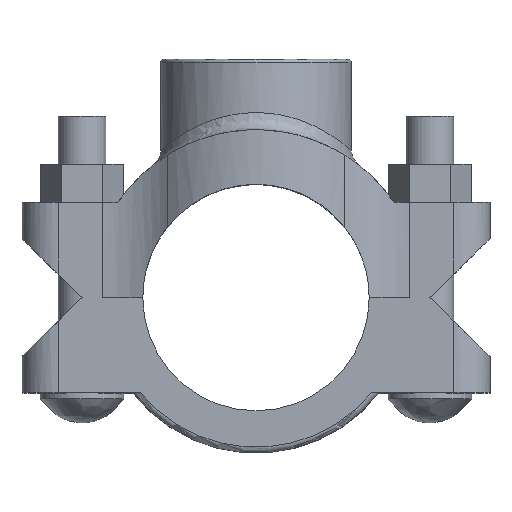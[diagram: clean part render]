
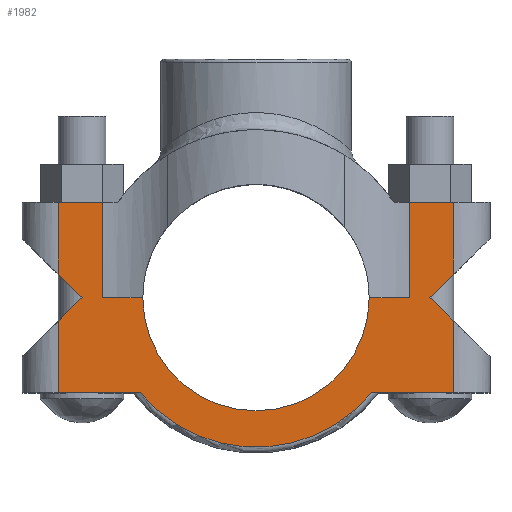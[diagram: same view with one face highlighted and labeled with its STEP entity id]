
A CAD part, top view. The second image highlights one B-rep face of the part: STEP entity #1982.
In plain terms, the highlighted planar face has unit normal (0, 0, 1).
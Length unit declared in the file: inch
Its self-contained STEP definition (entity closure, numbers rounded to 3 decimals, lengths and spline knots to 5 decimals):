
#118=LINE('',#3048,#270);
#164=LINE('',#3443,#316);
#177=LINE('',#3480,#329);
#184=LINE('',#3596,#336);
#196=LINE('',#3630,#348);
#198=LINE('',#3637,#350);
#199=LINE('',#3639,#351);
#200=LINE('',#3642,#352);
#221=LINE('',#3839,#373);
#223=LINE('',#3845,#375);
#225=LINE('',#3849,#377);
#226=LINE('',#3852,#378);
#227=LINE('',#3857,#379);
#230=LINE('',#3870,#382);
#234=LINE('',#3879,#386);
#235=LINE('',#3881,#387);
#270=VECTOR('',#2311,0.3937);
#316=VECTOR('',#2491,0.3937);
#329=VECTOR('',#2528,0.3937);
#336=VECTOR('',#2543,0.3937);
#348=VECTOR('',#2579,0.3937);
#350=VECTOR('',#2589,0.3937);
#351=VECTOR('',#2592,0.3937);
#352=VECTOR('',#2595,0.3937);
#373=VECTOR('',#2668,0.3937);
#375=VECTOR('',#2676,0.3937);
#377=VECTOR('',#2682,0.3937);
#378=VECTOR('',#2687,0.3937);
#379=VECTOR('',#2694,0.3937);
#382=VECTOR('',#2707,0.3937);
#386=VECTOR('',#2721,0.3937);
#387=VECTOR('',#2724,0.3937);
#435=PLANE('',#2188);
#526=FACE_OUTER_BOUND('',#632,.T.);
#632=EDGE_LOOP('',(#1739,#1740,#1741,#1742,#1743,#1744,#1745,#1746,#1747,
#1748,#1749,#1750,#1751,#1752,#1753,#1754,#1755,#1756));
#691=CIRCLE('',#2122,1.1875);
#700=CIRCLE('',#2146,1.57);
#794=VERTEX_POINT('',#3045);
#795=VERTEX_POINT('',#3047);
#855=VERTEX_POINT('',#3440);
#856=VERTEX_POINT('',#3442);
#867=VERTEX_POINT('',#3477);
#868=VERTEX_POINT('',#3479);
#875=VERTEX_POINT('',#3538);
#880=VERTEX_POINT('',#3591);
#881=VERTEX_POINT('',#3595);
#890=VERTEX_POINT('',#3627);
#891=VERTEX_POINT('',#3629);
#892=VERTEX_POINT('',#3635);
#893=VERTEX_POINT('',#3641);
#901=VERTEX_POINT('',#3664);
#903=VERTEX_POINT('',#3676);
#923=VERTEX_POINT('',#3838);
#925=VERTEX_POINT('',#3856);
#930=VERTEX_POINT('',#3868);
#993=EDGE_CURVE('',#795,#794,#118,.T.);
#1082=EDGE_CURVE('',#856,#855,#164,.T.);
#1101=EDGE_CURVE('',#868,#867,#177,.T.);
#1115=EDGE_CURVE('',#875,#880,#691,.T.);
#1116=EDGE_CURVE('',#881,#868,#184,.T.);
#1134=EDGE_CURVE('',#891,#890,#196,.T.);
#1138=EDGE_CURVE('',#892,#794,#198,.T.);
#1139=EDGE_CURVE('',#875,#892,#199,.T.);
#1140=EDGE_CURVE('',#881,#893,#200,.T.);
#1154=EDGE_CURVE('',#903,#901,#700,.T.);
#1186=EDGE_CURVE('',#903,#923,#221,.T.);
#1190=EDGE_CURVE('',#893,#901,#223,.T.);
#1192=EDGE_CURVE('',#855,#923,#225,.T.);
#1193=EDGE_CURVE('',#891,#880,#226,.T.);
#1195=EDGE_CURVE('',#925,#856,#227,.T.);
#1202=EDGE_CURVE('',#890,#930,#230,.T.);
#1206=EDGE_CURVE('',#867,#795,#234,.T.);
#1207=EDGE_CURVE('',#925,#930,#235,.T.);
#1739=ORIENTED_EDGE('',*,*,#1082,.T.);
#1740=ORIENTED_EDGE('',*,*,#1192,.T.);
#1741=ORIENTED_EDGE('',*,*,#1186,.F.);
#1742=ORIENTED_EDGE('',*,*,#1154,.T.);
#1743=ORIENTED_EDGE('',*,*,#1190,.F.);
#1744=ORIENTED_EDGE('',*,*,#1140,.F.);
#1745=ORIENTED_EDGE('',*,*,#1116,.T.);
#1746=ORIENTED_EDGE('',*,*,#1101,.T.);
#1747=ORIENTED_EDGE('',*,*,#1206,.T.);
#1748=ORIENTED_EDGE('',*,*,#993,.T.);
#1749=ORIENTED_EDGE('',*,*,#1138,.F.);
#1750=ORIENTED_EDGE('',*,*,#1139,.F.);
#1751=ORIENTED_EDGE('',*,*,#1115,.T.);
#1752=ORIENTED_EDGE('',*,*,#1193,.F.);
#1753=ORIENTED_EDGE('',*,*,#1134,.T.);
#1754=ORIENTED_EDGE('',*,*,#1202,.T.);
#1755=ORIENTED_EDGE('',*,*,#1207,.F.);
#1756=ORIENTED_EDGE('',*,*,#1195,.T.);
#1982=ADVANCED_FACE('',(#526),#435,.T.);
#2122=AXIS2_PLACEMENT_3D('',#3593,#2539,#2540);
#2146=AXIS2_PLACEMENT_3D('',#3677,#2614,#2615);
#2188=AXIS2_PLACEMENT_3D('',#3880,#2722,#2723);
#2311=DIRECTION('',(-1.,0.,0.));
#2491=DIRECTION('',(-0.713,-0.701,0.));
#2528=DIRECTION('',(0.713,0.701,0.));
#2539=DIRECTION('center_axis',(0.,0.,-1.));
#2540=DIRECTION('ref_axis',(-1.,0.,0.));
#2543=DIRECTION('',(-0.713,0.701,0.));
#2579=DIRECTION('',(0.,1.,0.));
#2589=DIRECTION('',(0.,1.,0.));
#2592=DIRECTION('',(1.,0.,0.));
#2595=DIRECTION('',(0.,-1.,0.));
#2614=DIRECTION('center_axis',(0.,0.,1.));
#2615=DIRECTION('ref_axis',(-1.,0.,0.));
#2668=DIRECTION('',(-1.,0.,0.));
#2676=DIRECTION('',(-1.,0.,0.));
#2682=DIRECTION('',(0.,-1.,0.));
#2687=DIRECTION('',(1.,0.,0.));
#2694=DIRECTION('',(0.713,-0.701,0.));
#2707=DIRECTION('',(-1.,0.,0.));
#2721=DIRECTION('',(0.,1.,0.));
#2722=DIRECTION('center_axis',(0.,0.,1.));
#2723=DIRECTION('ref_axis',(1.,0.,0.));
#2724=DIRECTION('',(0.,1.,0.));
#3045=CARTESIAN_POINT('',(1.60565,1.,0.75));
#3047=CARTESIAN_POINT('',(2.075,1.,0.75));
#3048=CARTESIAN_POINT('',(1.52698,1.,0.75));
#3440=CARTESIAN_POINT('',(-2.075,-0.24603,0.75));
#3442=CARTESIAN_POINT('',(-1.825,0.,0.75));
#3443=CARTESIAN_POINT('',(-1.26861,0.54755,0.75));
#3477=CARTESIAN_POINT('',(2.075,0.24603,0.75));
#3479=CARTESIAN_POINT('',(1.825,0.,0.75));
#3480=CARTESIAN_POINT('',(2.08429,0.25517,0.75));
#3538=CARTESIAN_POINT('',(1.1875,0.,0.75));
#3591=CARTESIAN_POINT('',(-1.1875,0.,0.75));
#3593=CARTESIAN_POINT('Origin',(0.,0.,0.75));
#3595=CARTESIAN_POINT('',(2.075,-0.24603,0.75));
#3596=CARTESIAN_POINT('',(1.76929,0.05483,0.75));
#3627=CARTESIAN_POINT('',(-1.60565,1.,0.75));
#3629=CARTESIAN_POINT('',(-1.60565,0.,0.75));
#3630=CARTESIAN_POINT('',(-1.60565,0.,0.75));
#3635=CARTESIAN_POINT('',(1.60565,0.,0.75));
#3637=CARTESIAN_POINT('',(1.60565,0.,0.75));
#3639=CARTESIAN_POINT('',(1.0375,0.,0.75));
#3641=CARTESIAN_POINT('',(2.075,-1.,0.75));
#3642=CARTESIAN_POINT('',(2.075,0.,0.75));
#3664=CARTESIAN_POINT('',(1.21033,-1.,0.75));
#3676=CARTESIAN_POINT('',(-1.21033,-1.,0.75));
#3677=CARTESIAN_POINT('Origin',(0.,0.,
0.75));
#3838=CARTESIAN_POINT('',(-2.075,-1.,0.75));
#3839=CARTESIAN_POINT('',(-2.075,-1.,0.75));
#3845=CARTESIAN_POINT('',(-2.075,-1.,0.75));
#3849=CARTESIAN_POINT('',(-2.075,0.,0.75));
#3852=CARTESIAN_POINT('',(1.0375,0.,0.75));
#3856=CARTESIAN_POINT('',(-2.075,0.24603,0.75));
#3857=CARTESIAN_POINT('',(-1.8885,0.06249,0.75));
#3868=CARTESIAN_POINT('',(-2.075,1.,0.75));
#3870=CARTESIAN_POINT('',(-2.265,1.,0.75));
#3879=CARTESIAN_POINT('',(2.075,0.,0.75));
#3880=CARTESIAN_POINT('Origin',(1.60565,0.,0.75));
#3881=CARTESIAN_POINT('',(-2.075,0.,0.75));
